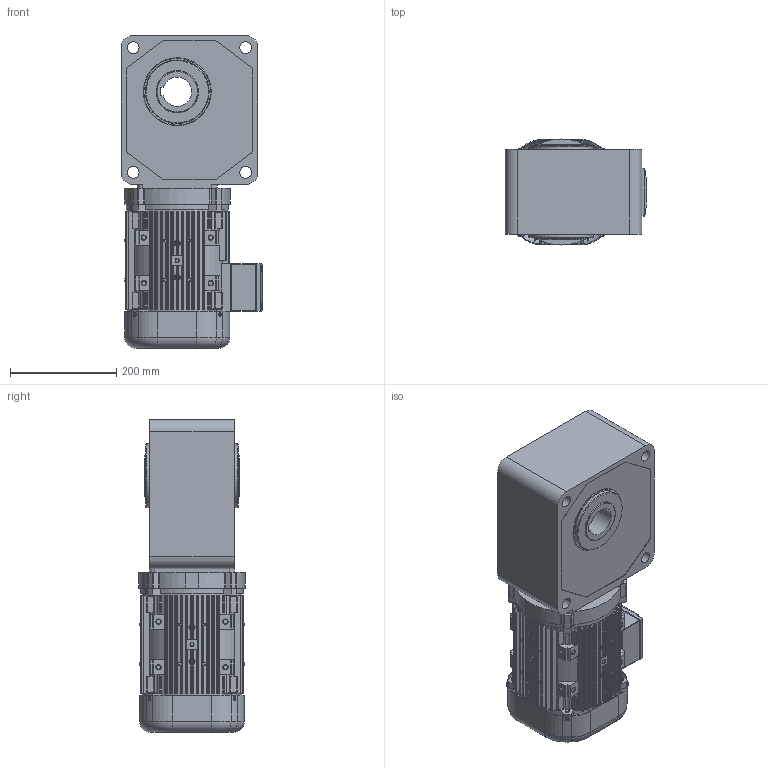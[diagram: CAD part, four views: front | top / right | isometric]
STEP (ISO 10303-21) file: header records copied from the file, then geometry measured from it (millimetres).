
FILE_DESCRIPTION((''),'2;1');
FILE_NAME('D:\01_작성 문서\2011\01 도면작업\00 그외\20110428_동력용 직교형 중공축 홈페이지 3D모형\PCH55-(5~60)-EA(B)220R4B.stp','2013-04-16T11:06:47',('jingon'),(''),'Autodesk Inventor 2012','Autodesk Inventor 2012','');
FILE_SCHEMA(('AUTOMOTIVE_DESIGN { 1 0 10303 214 1 1 1 1 }'));
Length unit declared in the file: millimetre
Products named in the file (14): PCH55-(5~60)-EA(B)220R4B; 100L 2.2kW FRAME L_T 20091124; RUBBER GASKET FOR ASM; Lead box EA(B) ASS'Y; LEAD BOX A 20090609; LEAD BOX B 20090609; 552400800-M4XL8; 0570004400_SKINTOP PG11; 0570004400_BED; 0570004400_CAP; 0570004400_Rubber; 554280302-M8-L30; 100L 2.2kW FAN COVER 70L 20091125; 중공축_2200W_50F
Assembly tree (23 placements, depth 3):
  PCH55-(5~60)-EA(B)220R4B
    100L 2.2kW FRAME L_T 20091124
    RUBBER GASKET FOR ASM
    554280302-M8-L30  x4
    100L 2.2kW FAN COVER 70L 20091125
    552400800-M4XL8  x4
    중공축_2200W_50F
  Lead box EA(B) ASS'Y
    LEAD BOX A 20090609
    LEAD BOX B 20090609
    RUBBER GASKET FOR ASM
    552400800-M4XL8  x4
    0570004400_SKINTOP PG11
      0570004400_BED
      0570004400_CAP
      0570004400_Rubber
Bounding box: 267.5 x 200 x 590 mm (x, y, z)
Volume: 13725370.4 mm3; surface area: 1066559.4 mm2
Topology: 22 solids, 22 shells, 1771 faces, 4730 edges, 3112 vertices
Faces by surface type: plane 880, cylinder 720, cone 93, torus 67, bspline 11
Full cylindrical faces by diameter (mm): 3.2 x8, 3.242 x14, 3.6 x4, 4 x8, 5 x8, 6 x5, 6.5 x3, 6.647 x12, 7 x8, 8 x16, 10.2 x1, 10.7 x1, 12 x4, 13 x4, 13.1 x1, 13.4 x2, 18.4 x1, 18.6 x1, 18.8 x1, 21 x1, 22 x4, 22.2 x1, 32 x4, 120 x2, 175 x1, 188 x3
Entity records: 51875 total; most frequent: CARTESIAN_POINT 10180, DIRECTION 8811, ORIENTED_EDGE 8114, EDGE_CURVE 4057, AXIS2_PLACEMENT_3D 3333, VERTEX_POINT 2768, VECTOR 2145, LINE 2145
